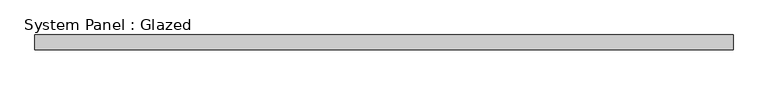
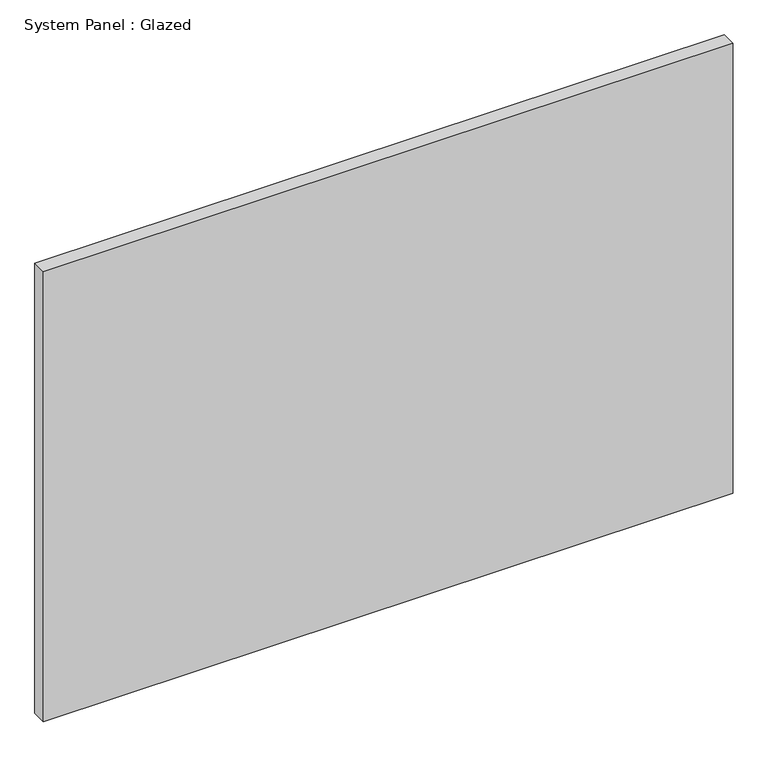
"""IFC4 building model written with IfcOpenShell, lengths in millimetres: plate geometry, System Panel : Glazed."""

from ifc_helpers import new_model, si_unit, origin, origin_with_axes, place, context, project, spatial, polyline, outline, extrude, source, transform, mapped, element, save


def system_panel_glazed_2ccc015e(model_context):
    return source(origin(), model_context, "Body", "SweptSolid", [
        extrude(outline(polyline([(593.725, 19.05), (-593.725, 19.05), (-593.725, 44.45), (593.725, 44.45), (593.725, 19.05)])), origin_with_axes(), (0.0, 0.0, 1.0), 819.15),
    ])


if __name__ == "__main__":
    model = new_model("IFC4")
    model_context = context("Model", 3, world=origin())
    ifc_project = project(units=[si_unit("LENGTHUNIT", "METRE", prefix="MILLI")], contexts=[model_context])
    site = spatial("IfcSite", under=ifc_project)
    building = spatial("IfcBuilding", under=site)
    placement = place(None, origin())
    system_panel_glazed_shape = system_panel_glazed_2ccc015e(model_context)
    element("IfcPlate", 1, ObjectType="System Panel : Glazed", at=placement, inside=building, context=model_context, shape_type="MappedRepresentation", body=[
        mapped(system_panel_glazed_shape, transform((0.0, 0.0, 0.0), x_axis=(1.0, 0.0, 0.0), y_axis=(0.0, 1.0, 0.0), z_axis=(0.0, 0.0, 1.0))),
    ])
    save(model, "model.ifc")
